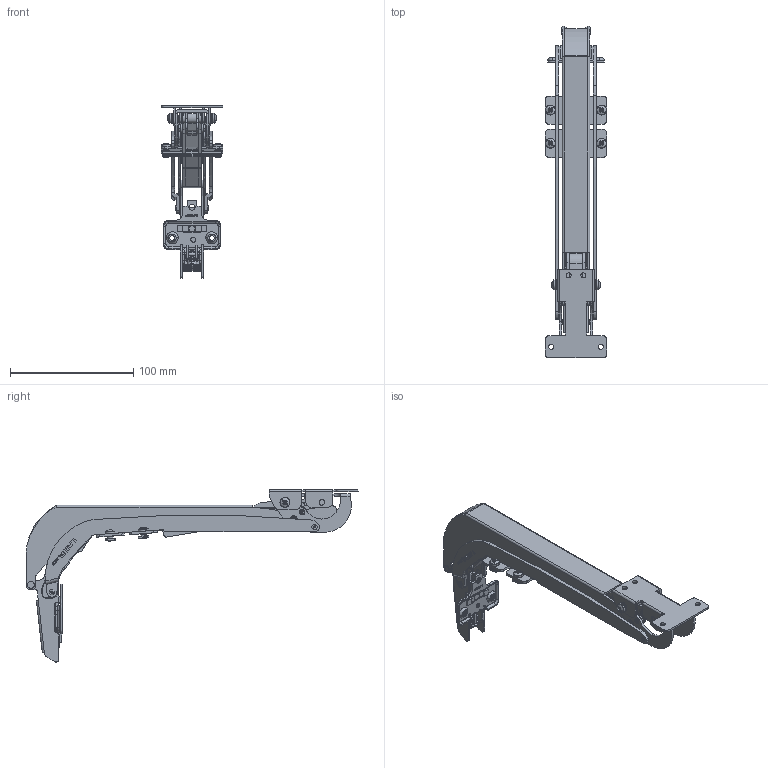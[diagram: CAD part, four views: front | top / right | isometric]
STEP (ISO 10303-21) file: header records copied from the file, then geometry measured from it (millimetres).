
FILE_DESCRIPTION (( 'STEP AP203' ), '1' );
FILE_NAME ('LIN_X450_open.STEP', '2012-07-23T05:26:24', ( '' ), ( '' ), 'SwSTEP 2.0', 'SolidWorks 2012', '' );
FILE_SCHEMA (( 'CONFIG_CONTROL_DESIGN' ));
Length unit declared in the file: millimetre
Products named in the file (10): LIN_X450_open; LIN_X450ACD_開時; LIN_X450_cover; LIN_X450_base_plate; LIN_X450_arm_D; LIN_X450_arm_C; LIN_X450_arm_B; LIN_X450_arm_A; LIN_X450_body; 230_P4W_32T
Assembly tree (9 placements, depth 3):
  LIN_X450_open
    230_P4W_32T
    LIN_X450ACD_開時
      LIN_X450_body
      LIN_X450_arm_A
      LIN_X450_arm_B
      LIN_X450_arm_C
      LIN_X450_arm_D
      LIN_X450_base_plate
      LIN_X450_cover
Bounding box: 50 x 269.54 x 139.69 mm (x, y, z)
Volume: 115554.1 mm3; surface area: 142367.3 mm2
Topology: 50 solids, 50 shells, 4757 faces, 12449 edges, 7742 vertices
Faces by surface type: plane 1887, cylinder 1773, bspline 689, cone 222, torus 150, sphere 36
Entity records: 162450 total; most frequent: CARTESIAN_POINT 49501, ORIENTED_EDGE 24722, DIRECTION 22048, EDGE_CURVE 12361, AXIS2_PLACEMENT_3D 7779, VERTEX_POINT 7742, LINE 6490, VECTOR 6490
